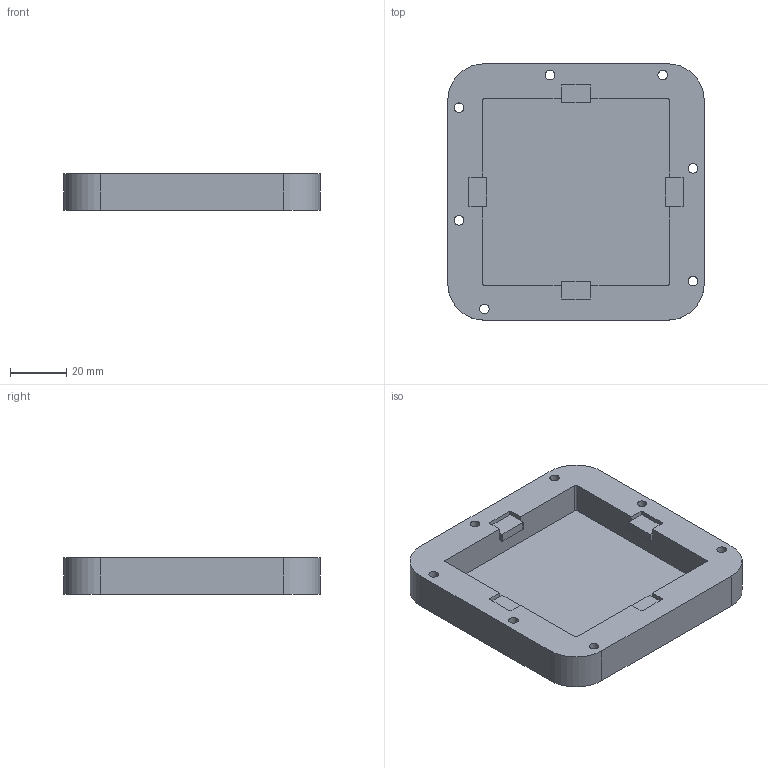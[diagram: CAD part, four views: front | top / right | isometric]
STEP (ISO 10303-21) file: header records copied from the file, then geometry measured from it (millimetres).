
FILE_DESCRIPTION(('Open CASCADE Model'),'2;1');
FILE_NAME('Open CASCADE Shape Model','2026-09-20T05:09:18',('Author'),( 'Open CASCADE'),'Open CASCADE STEP processor 8.0','Open CASCADE 8.0' ,'Unknown');
FILE_SCHEMA(('AP242_MANAGED_MODEL_BASED_3D_ENGINEERING_MIM_LF {1 0 10303 442 1 1 4 }' ));
Length unit declared in the file: millimetre
Products named in the file (1): Open CASCADE STEP translator 8.0 1
Bounding box: 91 x 91 x 13 mm (x, y, z)
Volume: 56074.9 mm3; surface area: 24877.1 mm2
Topology: 1 solids, 1 shells, 88 faces, 232 edges, 154 vertices
Faces by surface type: plane 50, cylinder 38
Full cylindrical faces by diameter (mm): 3.4 x7, 6.2 x7
Entity records: 5835 total; most frequent: CARTESIAN_POINT 1029, DIRECTION 935, LINE 544, VECTOR 544, ORIENTED_EDGE 464, PCURVE 464, DEFINITIONAL_REPRESENTATION 464, EDGE_CURVE 232
